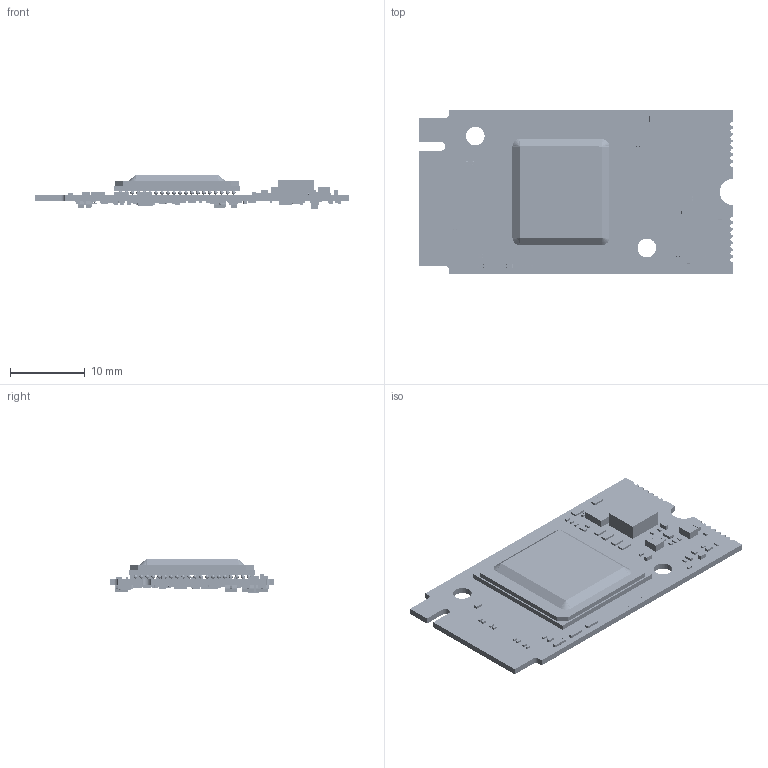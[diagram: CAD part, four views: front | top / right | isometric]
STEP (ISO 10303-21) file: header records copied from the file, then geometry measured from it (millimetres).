
FILE_DESCRIPTION (( 'STEP AP214' ), '1' );
FILE_NAME ('PCB00128_2R0 - modified.STEP', '2024-11-25T08:46:20', ( '' ), ( '' ), 'SwSTEP 2.0', 'SolidWorks 2018', '' );
FILE_SCHEMA (( 'AUTOMOTIVE_DESIGN' ));
Length unit declared in the file: millimetre
Products named in the file (1): PCB00128_2R0 - modified
Bounding box: 42 x 22 x 4.56 mm (x, y, z)
Surface area: 4480.4 mm2 (no closed solid volume)
Topology: 0 solids, 725 shells, 13826 faces, 37103 edges, 23023 vertices
Faces by surface type: plane 6799, cylinder 4127, sphere 1860, bspline 1030, torus 6, cone 4
Entity records: 339740 total; most frequent: ORIENTED_EDGE 66662, CARTESIAN_POINT 66660, EDGE_CURVE 33363, VERTEX_POINT 21774, AXIS2_PLACEMENT_3D 19599, LINE 17693, EDGE_LOOP 14645, MECHANICAL_DESIGN_GEOMETRIC_PRESENTATION_REPRESENTATION 13828
